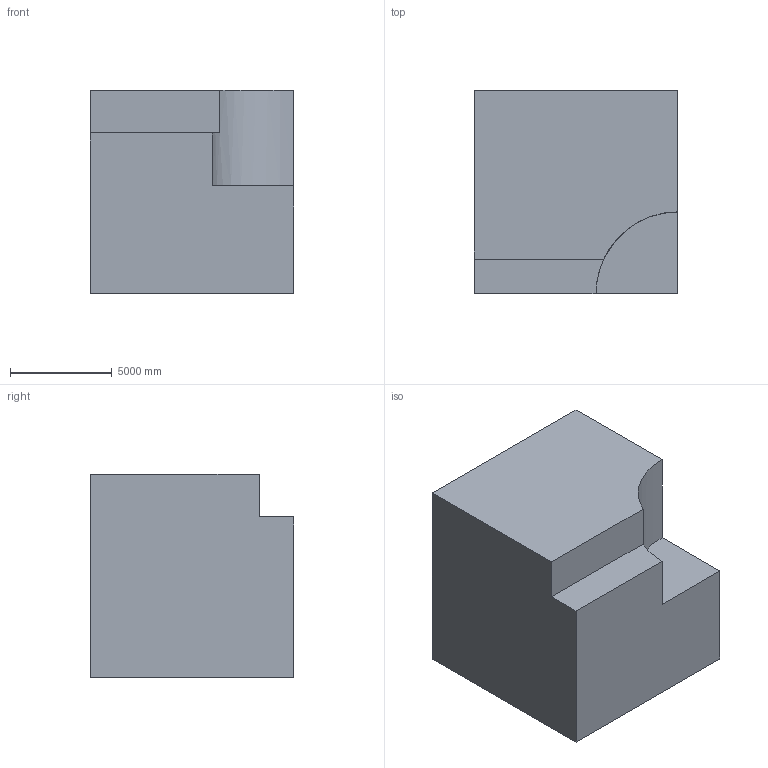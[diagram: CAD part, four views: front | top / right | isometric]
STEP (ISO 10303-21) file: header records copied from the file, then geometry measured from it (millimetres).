
FILE_DESCRIPTION (( 'STEP AP203' ), '1' );
FILE_NAME ('101.STEP', '2022-07-28T13:37:04', ( 'user' ), ( '' ), 'SwSTEP 2.0', 'SolidWorks 2021', '' );
FILE_SCHEMA (( 'CONFIG_CONTROL_DESIGN' ));
Length unit declared in the file: centimetre
Products named in the file (1): 101
Bounding box: 10000 x 10000 x 10000 mm (x, y, z)
Volume: 918834990359.9 mm3; surface area: 585473817.8 mm2
Topology: 1 solids, 1 shells, 10 faces, 24 edges, 16 vertices
Faces by surface type: plane 9, cylinder 1
Entity records: 368 total; most frequent: CARTESIAN_POINT 51, DIRECTION 49, ORIENTED_EDGE 48, EDGE_CURVE 24, VECTOR 21, LINE 21, VERTEX_POINT 16, AXIS2_PLACEMENT_3D 14
